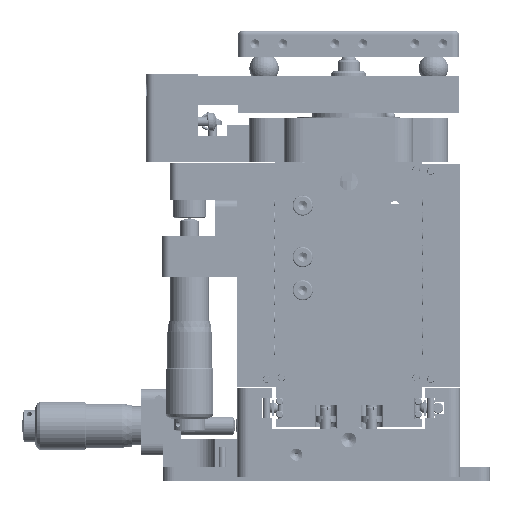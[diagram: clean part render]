
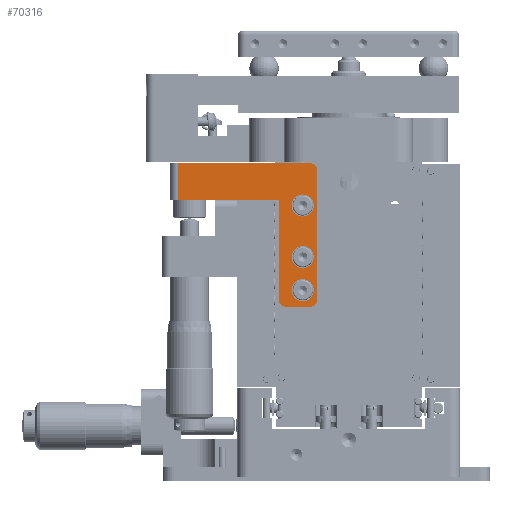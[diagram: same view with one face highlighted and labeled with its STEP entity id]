
A CAD part, front view. The second image highlights one B-rep face of the part: STEP entity #70316.
In plain terms, the highlighted planar face has unit normal (0, -1, 0).
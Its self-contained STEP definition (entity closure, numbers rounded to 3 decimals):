
#2873 = ORIENTED_EDGE ( 'NONE', *, *, #138783, .F. ) ;
#3698 = AXIS2_PLACEMENT_3D ( 'NONE', #113425, #23561, #125203 ) ;
#3701 = DIRECTION ( 'NONE',  ( -1., 0., 0. ) ) ;
#4046 = DIRECTION ( 'NONE',  ( 1., 0., 0. ) ) ;
#5511 = DIRECTION ( 'NONE',  ( 0., -1., 0. ) ) ;
#6982 = CARTESIAN_POINT ( 'NONE',  ( -4.426, -47.628, 86.329 ) ) ;
#8348 = ORIENTED_EDGE ( 'NONE', *, *, #68102, .F. ) ;
#8421 = EDGE_CURVE ( 'NONE', #54419, #140073, #84539, .T. ) ;
#9062 = CARTESIAN_POINT ( 'NONE',  ( -10.926, -47.628, 49.329 ) ) ;
#14744 = CIRCLE ( 'NONE', #31912, 3. ) ;
#15003 = ORIENTED_EDGE ( 'NONE', *, *, #21144, .T. ) ;
#15675 = VERTEX_POINT ( 'NONE', #76917 ) ;
#17125 = VERTEX_POINT ( 'NONE', #75606 ) ;
#17720 = DIRECTION ( 'NONE',  ( 0., 0., -1. ) ) ;
#18021 = VECTOR ( 'NONE', #3701, 1000. ) ;
#18141 = LINE ( 'NONE', #56004, #35823 ) ;
#18489 = CIRCLE ( 'NONE', #71644, 3. ) ;
#19603 = DIRECTION ( 'NONE',  ( 0., -1., 0. ) ) ;
#20335 = DIRECTION ( 'NONE',  ( 0., -1., 0. ) ) ;
#20392 = VERTEX_POINT ( 'NONE', #133170 ) ;
#20984 = FACE_BOUND ( 'NONE', #26798, .T. ) ;
#21128 = VERTEX_POINT ( 'NONE', #53436 ) ;
#21144 = EDGE_CURVE ( 'NONE', #140073, #101979, #54940, .T. ) ;
#23561 = DIRECTION ( 'NONE',  ( 0., -1., 0. ) ) ;
#24015 = CARTESIAN_POINT ( 'NONE',  ( -9.426, -47.628, 74.829 ) ) ;
#25450 = EDGE_CURVE ( 'NONE', #21128, #76903, #77245, .T. ) ;
#26798 = EDGE_LOOP ( 'NONE', ( #109147, #144729 ) ) ;
#26912 = CARTESIAN_POINT ( 'NONE',  ( -2.426, -47.628, 47.329 ) ) ;
#27052 = DIRECTION ( 'NONE',  ( 1., 0., 0. ) ) ;
#27421 = DIRECTION ( 'NONE',  ( 0., 0., 1. ) ) ;
#27708 = EDGE_LOOP ( 'NONE', ( #119951, #2873 ) ) ;
#28376 = CARTESIAN_POINT ( 'NONE',  ( -3.426, -47.628, 60.829 ) ) ;
#29681 = PLANE ( 'NONE',  #76670 ) ;
#30084 = CARTESIAN_POINT ( 'NONE',  ( -12.926, -47.628, 76.329 ) ) ;
#31630 = DIRECTION ( 'NONE',  ( 0., -1., 0. ) ) ;
#31912 = AXIS2_PLACEMENT_3D ( 'NONE', #60190, #5511, #4046 ) ;
#35823 = VECTOR ( 'NONE', #49071, 1000. ) ;
#38296 = CARTESIAN_POINT ( 'NONE',  ( -6.426, -47.628, 51.829 ) ) ;
#40652 = DIRECTION ( 'NONE',  ( 0., -1., 0. ) ) ;
#40699 = LINE ( 'NONE', #85155, #96881 ) ;
#41333 = DIRECTION ( 'NONE',  ( 1., 0., 0. ) ) ;
#41871 = ORIENTED_EDGE ( 'NONE', *, *, #93084, .T. ) ;
#43614 = EDGE_LOOP ( 'NONE', ( #8348, #76121 ) ) ;
#44810 = CARTESIAN_POINT ( 'NONE',  ( -40.426, -47.628, 86.329 ) ) ;
#44866 = LINE ( 'NONE', #124826, #134435 ) ;
#46214 = ORIENTED_EDGE ( 'NONE', *, *, #106124, .T. ) ;
#48285 = DIRECTION ( 'NONE',  ( 1., 0., 0. ) ) ;
#48599 = CARTESIAN_POINT ( 'NONE',  ( -2.426, -47.628, 49.329 ) ) ;
#49011 = CARTESIAN_POINT ( 'NONE',  ( -4.426, -47.628, 47.329 ) ) ;
#49071 = DIRECTION ( 'NONE',  ( 0., 0., -1. ) ) ;
#49598 = DIRECTION ( 'NONE',  ( 1., 0., 0. ) ) ;
#50227 = ORIENTED_EDGE ( 'NONE', *, *, #106923, .T. ) ;
#50246 = DIRECTION ( 'NONE',  ( 1., 0., 0. ) ) ;
#50828 = FACE_OUTER_BOUND ( 'NONE', #104048, .T. ) ;
#53436 = CARTESIAN_POINT ( 'NONE',  ( -10.926, -47.628, 47.329 ) ) ;
#54419 = VERTEX_POINT ( 'NONE', #48599 ) ;
#54583 = CARTESIAN_POINT ( 'NONE',  ( -6.426, -47.628, 74.829 ) ) ;
#54940 = CIRCLE ( 'NONE', #70511, 2. ) ;
#56004 = CARTESIAN_POINT ( 'NONE',  ( -40.426, -47.628, 76.329 ) ) ;
#56590 = AXIS2_PLACEMENT_3D ( 'NONE', #140523, #139089, #50246 ) ;
#58598 = LINE ( 'NONE', #95113, #18021 ) ;
#60190 = CARTESIAN_POINT ( 'NONE',  ( -6.426, -47.628, 51.829 ) ) ;
#60363 = VERTEX_POINT ( 'NONE', #24015 ) ;
#61736 = VECTOR ( 'NONE', #27421, 1000. ) ;
#63289 = FACE_BOUND ( 'NONE', #43614, .T. ) ;
#63876 = CIRCLE ( 'NONE', #111239, 3. ) ;
#64681 = CARTESIAN_POINT ( 'NONE',  ( -12.926, -47.628, 76.329 ) ) ;
#66556 = VERTEX_POINT ( 'NONE', #28376 ) ;
#67163 = CARTESIAN_POINT ( 'NONE',  ( -6.426, -47.628, 74.829 ) ) ;
#68102 = EDGE_CURVE ( 'NONE', #66556, #17125, #18489, .T. ) ;
#68568 = EDGE_CURVE ( 'NONE', #76903, #54419, #137943, .T. ) ;
#69928 = CARTESIAN_POINT ( 'NONE',  ( -2.426, -47.628, 84.329 ) ) ;
#70316 = ADVANCED_FACE ( 'NONE', ( #116272, #63289, #20984, #50828 ), #29681, .T. ) ;
#70511 = AXIS2_PLACEMENT_3D ( 'NONE', #97573, #40652, #142720 ) ;
#71059 = EDGE_CURVE ( 'NONE', #143915, #15675, #40699, .T. ) ;
#71644 = AXIS2_PLACEMENT_3D ( 'NONE', #106142, #94869, #27052 ) ;
#73938 = EDGE_CURVE ( 'NONE', #60363, #106472, #140432, .T. ) ;
#74541 = CARTESIAN_POINT ( 'NONE',  ( -2.426, -47.628, 47.329 ) ) ;
#75606 = CARTESIAN_POINT ( 'NONE',  ( -9.426, -47.628, 60.829 ) ) ;
#76121 = ORIENTED_EDGE ( 'NONE', *, *, #114680, .F. ) ;
#76670 = AXIS2_PLACEMENT_3D ( 'NONE', #64681, #31630, #130952 ) ;
#76903 = VERTEX_POINT ( 'NONE', #49011 ) ;
#76917 = CARTESIAN_POINT ( 'NONE',  ( -12.926, -47.628, 49.329 ) ) ;
#77245 = LINE ( 'NONE', #74541, #110535 ) ;
#77491 = DIRECTION ( 'NONE',  ( 1., 0., 0. ) ) ;
#80241 = CIRCLE ( 'NONE', #111734, 2. ) ;
#81884 = EDGE_CURVE ( 'NONE', #106472, #60363, #110580, .T. ) ;
#84539 = LINE ( 'NONE', #26912, #61736 ) ;
#85155 = CARTESIAN_POINT ( 'NONE',  ( -12.926, -47.628, 47.329 ) ) ;
#90140 = ORIENTED_EDGE ( 'NONE', *, *, #71059, .T. ) ;
#90217 = DIRECTION ( 'NONE',  ( 0., -1., 0. ) ) ;
#92230 = CIRCLE ( 'NONE', #3698, 3. ) ;
#93084 = EDGE_CURVE ( 'NONE', #101979, #144718, #58598, .T. ) ;
#94869 = DIRECTION ( 'NONE',  ( 0., -1., 0. ) ) ;
#95113 = CARTESIAN_POINT ( 'NONE',  ( -42.426, -47.628, 86.329 ) ) ;
#96881 = VECTOR ( 'NONE', #17720, 1000. ) ;
#97573 = CARTESIAN_POINT ( 'NONE',  ( -4.426, -47.628, 84.329 ) ) ;
#99382 = AXIS2_PLACEMENT_3D ( 'NONE', #67163, #90217, #77491 ) ;
#101979 = VERTEX_POINT ( 'NONE', #6982 ) ;
#102255 = ORIENTED_EDGE ( 'NONE', *, *, #143315, .T. ) ;
#104048 = EDGE_LOOP ( 'NONE', ( #90140, #102255, #126860, #140788, #121471, #15003, #41871, #50227, #46214 ) ) ;
#106124 = EDGE_CURVE ( 'NONE', #134607, #143915, #44866, .T. ) ;
#106142 = CARTESIAN_POINT ( 'NONE',  ( -6.426, -47.628, 60.829 ) ) ;
#106472 = VERTEX_POINT ( 'NONE', #109018 ) ;
#106923 = EDGE_CURVE ( 'NONE', #144718, #134607, #18141, .T. ) ;
#107394 = VERTEX_POINT ( 'NONE', #109337 ) ;
#108344 = DIRECTION ( 'NONE',  ( 1., 0., 0. ) ) ;
#109018 = CARTESIAN_POINT ( 'NONE',  ( -3.426, -47.628, 74.829 ) ) ;
#109147 = ORIENTED_EDGE ( 'NONE', *, *, #81884, .F. ) ;
#109337 = CARTESIAN_POINT ( 'NONE',  ( -3.426, -47.628, 51.829 ) ) ;
#110535 = VECTOR ( 'NONE', #108344, 1000. ) ;
#110580 = CIRCLE ( 'NONE', #138474, 3. ) ;
#111239 = AXIS2_PLACEMENT_3D ( 'NONE', #38296, #116813, #49598 ) ;
#111734 = AXIS2_PLACEMENT_3D ( 'NONE', #9062, #20335, #122023 ) ;
#113425 = CARTESIAN_POINT ( 'NONE',  ( -6.426, -47.628, 60.829 ) ) ;
#114680 = EDGE_CURVE ( 'NONE', #17125, #66556, #92230, .T. ) ;
#116272 = FACE_BOUND ( 'NONE', #27708, .T. ) ;
#116813 = DIRECTION ( 'NONE',  ( 0., -1., 0. ) ) ;
#117215 = CARTESIAN_POINT ( 'NONE',  ( -40.426, -47.628, 76.329 ) ) ;
#119951 = ORIENTED_EDGE ( 'NONE', *, *, #144531, .F. ) ;
#121471 = ORIENTED_EDGE ( 'NONE', *, *, #8421, .T. ) ;
#122023 = DIRECTION ( 'NONE',  ( 1., 0., 0. ) ) ;
#124826 = CARTESIAN_POINT ( 'NONE',  ( -12.926, -47.628, 76.329 ) ) ;
#125203 = DIRECTION ( 'NONE',  ( 1., 0., 0. ) ) ;
#126860 = ORIENTED_EDGE ( 'NONE', *, *, #25450, .T. ) ;
#130952 = DIRECTION ( 'NONE',  ( 1., 0., 0. ) ) ;
#133170 = CARTESIAN_POINT ( 'NONE',  ( -9.426, -47.628, 51.829 ) ) ;
#134435 = VECTOR ( 'NONE', #48285, 1000. ) ;
#134607 = VERTEX_POINT ( 'NONE', #117215 ) ;
#137943 = CIRCLE ( 'NONE', #56590, 2. ) ;
#138474 = AXIS2_PLACEMENT_3D ( 'NONE', #54583, #19603, #41333 ) ;
#138783 = EDGE_CURVE ( 'NONE', #20392, #107394, #63876, .T. ) ;
#139089 = DIRECTION ( 'NONE',  ( 0., -1., 0. ) ) ;
#140073 = VERTEX_POINT ( 'NONE', #69928 ) ;
#140432 = CIRCLE ( 'NONE', #99382, 3. ) ;
#140523 = CARTESIAN_POINT ( 'NONE',  ( -4.426, -47.628, 49.329 ) ) ;
#140788 = ORIENTED_EDGE ( 'NONE', *, *, #68568, .T. ) ;
#142720 = DIRECTION ( 'NONE',  ( 1., 0., 0. ) ) ;
#143315 = EDGE_CURVE ( 'NONE', #15675, #21128, #80241, .T. ) ;
#143915 = VERTEX_POINT ( 'NONE', #30084 ) ;
#144531 = EDGE_CURVE ( 'NONE', #107394, #20392, #14744, .T. ) ;
#144718 = VERTEX_POINT ( 'NONE', #44810 ) ;
#144729 = ORIENTED_EDGE ( 'NONE', *, *, #73938, .F. ) ;
